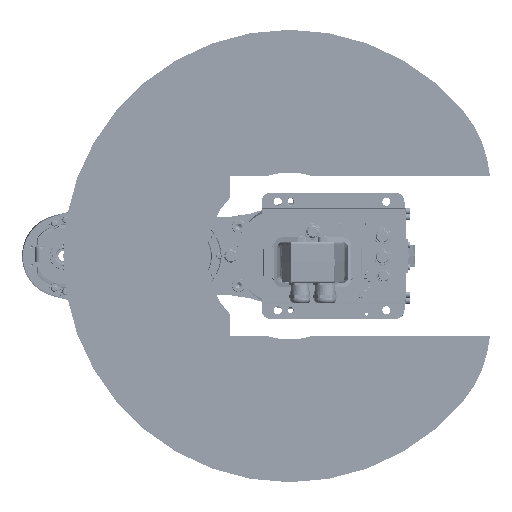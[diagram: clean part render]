
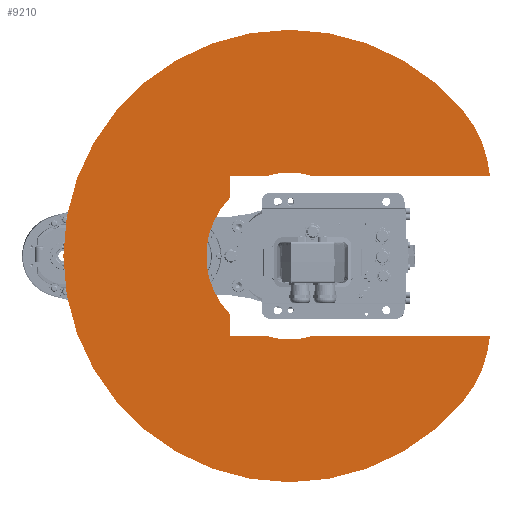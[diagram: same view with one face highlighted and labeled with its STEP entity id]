
A CAD part, front view. The second image highlights one B-rep face of the part: STEP entity #9210.
In plain terms, the highlighted planar face has unit normal (0, -1, 0).
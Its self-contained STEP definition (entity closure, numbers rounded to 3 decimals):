
#9210 = ADVANCED_FACE( '', ( #21127 ), #21128, .F. );
#21127 = FACE_OUTER_BOUND( '', #36357, .T. );
#21128 = PLANE( '', #36358 );
#36357 = EDGE_LOOP( '', ( #63362, #63363, #63364, #63365, #63366, #63367, #63368, #63369, #63370, #63371, #63372, #63373 ) );
#36358 = AXIS2_PLACEMENT_3D( '', #63374, #63375, #63376 );
#63362 = ORIENTED_EDGE( '', *, *, #88259, .T. );
#63363 = ORIENTED_EDGE( '', *, *, #85022, .F. );
#63364 = ORIENTED_EDGE( '', *, *, #80645, .F. );
#63365 = ORIENTED_EDGE( '', *, *, #88260, .F. );
#63366 = ORIENTED_EDGE( '', *, *, #85371, .T. );
#63367 = ORIENTED_EDGE( '', *, *, #79382, .T. );
#63368 = ORIENTED_EDGE( '', *, *, #84418, .T. );
#63369 = ORIENTED_EDGE( '', *, *, #85008, .T. );
#63370 = ORIENTED_EDGE( '', *, *, #88261, .T. );
#63371 = ORIENTED_EDGE( '', *, *, #81099, .T. );
#63372 = ORIENTED_EDGE( '', *, *, #81984, .T. );
#63373 = ORIENTED_EDGE( '', *, *, #88262, .T. );
#63374 = CARTESIAN_POINT( '', ( 38.567, 0., 45.963 ) );
#63375 = DIRECTION( '', ( 0., 1., 0. ) );
#63376 = DIRECTION( '', ( 0., 0., 1. ) );
#79382 = EDGE_CURVE( '', #93885, #93883, #93886, .T. );
#80645 = EDGE_CURVE( '', #96079, #96080, #96081, .T. );
#81099 = EDGE_CURVE( '', #96841, #96839, #96842, .T. );
#81984 = EDGE_CURVE( '', #96839, #98338, #98339, .T. );
#84418 = EDGE_CURVE( '', #93883, #102208, #102210, .T. );
#85008 = EDGE_CURVE( '', #102208, #103122, #103123, .T. );
#85022 = EDGE_CURVE( '', #96080, #103143, #103146, .T. );
#85371 = EDGE_CURVE( '', #103677, #93885, #103681, .T. );
#88259 = EDGE_CURVE( '', #107784, #103143, #107785, .T. );
#88260 = EDGE_CURVE( '', #103677, #96079, #107786, .T. );
#88261 = EDGE_CURVE( '', #103122, #96841, #107787, .T. );
#88262 = EDGE_CURVE( '', #98338, #107784, #107788, .T. );
#93883 = VERTEX_POINT( '', #115151 );
#93885 = VERTEX_POINT( '', #115154 );
#93886 = CIRCLE( '', #115155, 92.1 );
#96079 = VERTEX_POINT( '', #118773 );
#96080 = VERTEX_POINT( '', #118774 );
#96081 = CIRCLE( '', #118775, 250. );
#96839 = VERTEX_POINT( '', #120071 );
#96841 = VERTEX_POINT( '', #120074 );
#96842 = LINE( '', #120075, #120076 );
#98338 = VERTEX_POINT( '', #122609 );
#98339 = LINE( '', #122610, #122611 );
#102208 = VERTEX_POINT( '', #129362 );
#102210 = LINE( '', #129365, #129366 );
#103122 = VERTEX_POINT( '', #130890 );
#103123 = LINE( '', #130891, #130892 );
#103143 = VERTEX_POINT( '', #130994 );
#103146 = CIRCLE( '', #130998, 130. );
#103677 = VERTEX_POINT( '', #131963 );
#103681 = LINE( '', #131969, #131970 );
#107784 = VERTEX_POINT( '', #138989 );
#107785 = LINE( '', #138990, #138991 );
#107786 = CIRCLE( '', #138992, 130. );
#107787 = CIRCLE( '', #138993, 92.1 );
#107788 = CIRCLE( '', #138994, 92.1 );
#115151 = CARTESIAN_POINT( '', ( 88., 0., -27.174 ) );
#115154 = CARTESIAN_POINT( '', ( 88., 0., 27.174 ) );
#115155 = AXIS2_PLACEMENT_3D( '', #146797, #146798, #146799 );
#118773 = CARTESIAN_POINT( '', ( 160.697, 0., 191.511 ) );
#118774 = CARTESIAN_POINT( '', ( -160.697, 0., 191.511 ) );
#118775 = AXIS2_PLACEMENT_3D( '', #148288, #148289, #148290 );
#120071 = CARTESIAN_POINT( '', ( -88., 0., -66. ) );
#120074 = CARTESIAN_POINT( '', ( -64.237, 0., -66. ) );
#120075 = CARTESIAN_POINT( '', ( 88., 0., -66. ) );
#120076 = VECTOR( '', #148837, 1000. );
#122609 = CARTESIAN_POINT( '', ( -88., 0., -27.174 ) );
#122610 = CARTESIAN_POINT( '', ( -88., 0., -66. ) );
#122611 = VECTOR( '', #149812, 1000. );
#129362 = CARTESIAN_POINT( '', ( 88., 0., -66. ) );
#129365 = CARTESIAN_POINT( '', ( 88., 0., 334. ) );
#129366 = VECTOR( '', #152305, 1000. );
#130890 = CARTESIAN_POINT( '', ( 64.237, 0., -66. ) );
#130891 = CARTESIAN_POINT( '', ( 88., 0., -66. ) );
#130892 = VECTOR( '', #152945, 1000. );
#130994 = CARTESIAN_POINT( '', ( -88., 0., 221.47 ) );
#130998 = AXIS2_PLACEMENT_3D( '', #152960, #152961, #152962 );
#131963 = CARTESIAN_POINT( '', ( 88., 0., 221.47 ) );
#131969 = CARTESIAN_POINT( '', ( 88., 0., 334. ) );
#131970 = VECTOR( '', #153289, 1000. );
#138989 = CARTESIAN_POINT( '', ( -88., 0., 27.174 ) );
#138990 = CARTESIAN_POINT( '', ( -88., 0., -66. ) );
#138991 = VECTOR( '', #156451, 1000. );
#138992 = AXIS2_PLACEMENT_3D( '', #156452, #156453, #156454 );
#138993 = AXIS2_PLACEMENT_3D( '', #156455, #156456, #156457 );
#138994 = AXIS2_PLACEMENT_3D( '', #156458, #156459, #156460 );
#146797 = CARTESIAN_POINT( '', ( 0., 0., 0. ) );
#146798 = DIRECTION( '', ( 0., 1., 0. ) );
#146799 = DIRECTION( '', ( 1., 0., 0. ) );
#148288 = CARTESIAN_POINT( '', ( 0., 0., 0. ) );
#148289 = DIRECTION( '', ( 0., 1., 0. ) );
#148290 = DIRECTION( '', ( 1., 0., 0. ) );
#148837 = DIRECTION( '', ( -1., 0., 0. ) );
#149812 = DIRECTION( '', ( 0., 0., 1. ) );
#152305 = DIRECTION( '', ( 0., 0., -1. ) );
#152945 = DIRECTION( '', ( -1., 0., 0. ) );
#152960 = CARTESIAN_POINT( '', ( -77.135, 0., 91.925 ) );
#152961 = DIRECTION( '', ( 0., 1., 0. ) );
#152962 = DIRECTION( '', ( 1., 0., 0. ) );
#153289 = DIRECTION( '', ( 0., 0., -1. ) );
#156451 = DIRECTION( '', ( 0., 0., 1. ) );
#156452 = CARTESIAN_POINT( '', ( 77.135, 0., 91.925 ) );
#156453 = DIRECTION( '', ( 0., 1., 0. ) );
#156454 = DIRECTION( '', ( 1., 0., 0. ) );
#156455 = CARTESIAN_POINT( '', ( 0., 0., 0. ) );
#156456 = DIRECTION( '', ( 0., 1., 0. ) );
#156457 = DIRECTION( '', ( 1., 0., 0. ) );
#156458 = CARTESIAN_POINT( '', ( 0., 0., 0. ) );
#156459 = DIRECTION( '', ( 0., 1., 0. ) );
#156460 = DIRECTION( '', ( 1., 0., 0. ) );
